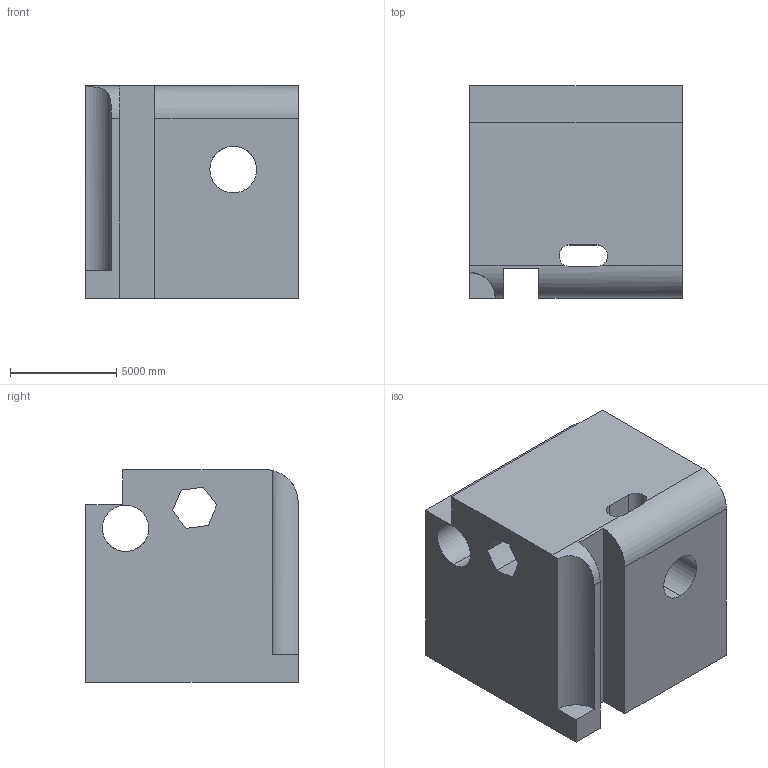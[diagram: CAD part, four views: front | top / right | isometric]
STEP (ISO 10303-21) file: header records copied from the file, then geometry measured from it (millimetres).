
FILE_DESCRIPTION (( 'STEP AP203' ), '1' );
FILE_NAME ('1791.STEP', '2022-08-19T12:55:08', ( 'user' ), ( '' ), 'SwSTEP 2.0', 'SolidWorks 2021', '' );
FILE_SCHEMA (( 'CONFIG_CONTROL_DESIGN' ));
Length unit declared in the file: centimetre
Products named in the file (1): 1791
Bounding box: 10000 x 10000 x 10000 mm (x, y, z)
Volume: 812795314080.8 mm3; surface area: 822271394.2 mm2
Topology: 1 solids, 1 shells, 31 faces, 99 edges, 66 vertices
Faces by surface type: plane 21, cylinder 10
Entity records: 1972 total; most frequent: CARTESIAN_POINT 992, ORIENTED_EDGE 198, DIRECTION 175, EDGE_CURVE 99, VECTOR 69, LINE 69, VERTEX_POINT 66, AXIS2_PLACEMENT_3D 53
